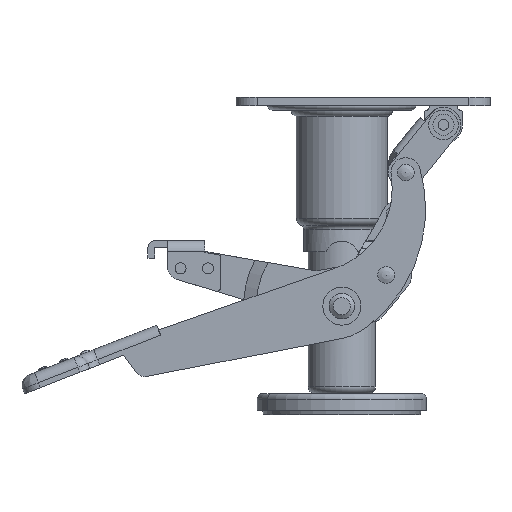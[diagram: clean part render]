
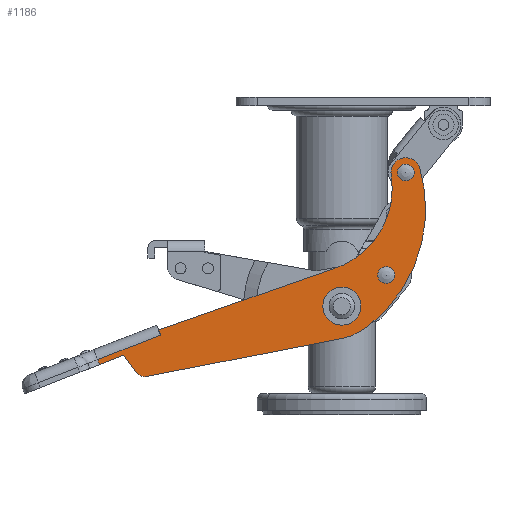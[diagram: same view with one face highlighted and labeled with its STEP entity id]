
A CAD part, left-side view. The second image highlights one B-rep face of the part: STEP entity #1186.
In plain terms, the highlighted planar face has unit normal (-1, 0, 0).
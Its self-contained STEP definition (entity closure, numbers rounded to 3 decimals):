
#1186 = ADVANCED_FACE( '', ( #3129, #3130, #3131 ), #3132, .T. );
#3129 = FACE_BOUND( '', #6163, .T. );
#3130 = FACE_OUTER_BOUND( '', #6164, .T. );
#3131 = FACE_BOUND( '', #6165, .T. );
#3132 = PLANE( '', #6166 );
#6163 = EDGE_LOOP( '', ( #10733 ) );
#6164 = EDGE_LOOP( '', ( #10734, #10735, #10736, #10737, #10738, #10739, #10740, #10741, #10742, #10743, #10744, #10745 ) );
#6165 = EDGE_LOOP( '', ( #10746 ) );
#6166 = AXIS2_PLACEMENT_3D( '', #10747, #10748, #10749 );
#10733 = ORIENTED_EDGE( '', *, *, #18629, .F. );
#10734 = ORIENTED_EDGE( '', *, *, #18630, .F. );
#10735 = ORIENTED_EDGE( '', *, *, #18396, .F. );
#10736 = ORIENTED_EDGE( '', *, *, #18631, .F. );
#10737 = ORIENTED_EDGE( '', *, *, #18632, .F. );
#10738 = ORIENTED_EDGE( '', *, *, #18633, .F. );
#10739 = ORIENTED_EDGE( '', *, *, #18440, .F. );
#10740 = ORIENTED_EDGE( '', *, *, #18634, .F. );
#10741 = ORIENTED_EDGE( '', *, *, #18635, .F. );
#10742 = ORIENTED_EDGE( '', *, *, #18636, .F. );
#10743 = ORIENTED_EDGE( '', *, *, #18637, .F. );
#10744 = ORIENTED_EDGE( '', *, *, #18638, .F. );
#10745 = ORIENTED_EDGE( '', *, *, #18639, .F. );
#10746 = ORIENTED_EDGE( '', *, *, #18546, .F. );
#10747 = CARTESIAN_POINT( '', ( -29.5, -566.982, -84.159 ) );
#10748 = DIRECTION( '', ( -1., 0., 0. ) );
#10749 = DIRECTION( '', ( 0., 0.932, -0.363 ) );
#18396 = EDGE_CURVE( '', #21567, #21569, #21570, .T. );
#18440 = EDGE_CURVE( '', #21645, #21647, #21648, .T. );
#18546 = EDGE_CURVE( '', #21837, #21837, #21838, .F. );
#18629 = EDGE_CURVE( '', #21974, #21974, #21975, .F. );
#18630 = EDGE_CURVE( '', #21569, #21976, #21977, .F. );
#18631 = EDGE_CURVE( '', #21978, #21567, #21979, .F. );
#18632 = EDGE_CURVE( '', #21980, #21978, #21981, .T. );
#18633 = EDGE_CURVE( '', #21647, #21980, #21982, .T. );
#18634 = EDGE_CURVE( '', #21983, #21645, #21984, .F. );
#18635 = EDGE_CURVE( '', #21985, #21983, #21986, .F. );
#18636 = EDGE_CURVE( '', #21987, #21985, #21988, .T. );
#18637 = EDGE_CURVE( '', #21989, #21987, #21990, .F. );
#18638 = EDGE_CURVE( '', #21991, #21989, #21992, .F. );
#18639 = EDGE_CURVE( '', #21976, #21991, #21993, .F. );
#21567 = VERTEX_POINT( '', #26140 );
#21569 = VERTEX_POINT( '', #26143 );
#21570 = CIRCLE( '', #26144, 5. );
#21645 = VERTEX_POINT( '', #26242 );
#21647 = VERTEX_POINT( '', #26245 );
#21648 = CIRCLE( '', #26246, 7. );
#21837 = VERTEX_POINT( '', #26548 );
#21838 = CIRCLE( '', #26549, 3.5 );
#21974 = VERTEX_POINT( '', #26811 );
#21975 = CIRCLE( '', #26812, 3.5 );
#21976 = VERTEX_POINT( '', #26813 );
#21977 = LINE( '', #26814, #26815 );
#21978 = VERTEX_POINT( '', #26816 );
#21979 = LINE( '', #26817, #26818 );
#21980 = VERTEX_POINT( '', #26819 );
#21981 = CIRCLE( '', #26820, 30. );
#21982 = CIRCLE( '', #26821, 70. );
#21983 = VERTEX_POINT( '', #26822 );
#21984 = CIRCLE( '', #26823, 40. );
#21985 = VERTEX_POINT( '', #26824 );
#21986 = LINE( '', #26825, #26826 );
#21987 = VERTEX_POINT( '', #26827 );
#21988 = LINE( '', #26828, #26829 );
#21989 = VERTEX_POINT( '', #26830 );
#21990 = LINE( '', #26831, #26832 );
#21991 = VERTEX_POINT( '', #26833 );
#21992 = LINE( '', #26834, #26835 );
#21993 = LINE( '', #26836, #26837 );
#26140 = CARTESIAN_POINT( '', ( -29.5, 92.192, -131.917 ) );
#26143 = CARTESIAN_POINT( '', ( -29.5, 97.171, -129.977 ) );
#26144 = AXIS2_PLACEMENT_3D( '', #33547, #33548, #33549 );
#26242 = CARTESIAN_POINT( '', ( -29.5, -23.269, -36.654 ) );
#26245 = CARTESIAN_POINT( '', ( -29.5, -36.911, -33.616 ) );
#26246 = AXIS2_PLACEMENT_3D( '', #33604, #33605, #33606 );
#26548 = CARTESIAN_POINT( '', ( -29.5, -21., -87.5 ) );
#26549 = AXIS2_PLACEMENT_3D( '', #33760, #33761, #33762 );
#26811 = CARTESIAN_POINT( '', ( -29.5, -30.18, -39.04 ) );
#26812 = AXIS2_PLACEMENT_3D( '', #33866, #33867, #33868 );
#26813 = CARTESIAN_POINT( '', ( -29.5, 103.145, -121.874 ) );
#26814 = CARTESIAN_POINT( '', ( -29.5, 106.723, -117.021 ) );
#26815 = VECTOR( '', #33869, 1000. );
#26816 = CARTESIAN_POINT( '', ( -29.5, 0.313, -114.042 ) );
#26817 = CARTESIAN_POINT( '', ( -29.5, 92.192, -131.917 ) );
#26818 = VECTOR( '', #33870, 1000. );
#26819 = CARTESIAN_POINT( '', ( -29.5, -12.221, -108.395 ) );
#26820 = AXIS2_PLACEMENT_3D( '', #33871, #33872, #33873 );
#26821 = AXIS2_PLACEMENT_3D( '', #33874, #33875, #33876 );
#26822 = CARTESIAN_POINT( '', ( -29.5, 5.455, -81.538 ) );
#26823 = AXIS2_PLACEMENT_3D( '', #33877, #33878, #33879 );
#26824 = CARTESIAN_POINT( '', ( -29.5, 86.645, -109.986 ) );
#26825 = CARTESIAN_POINT( '', ( -29.5, 5.455, -81.538 ) );
#26826 = VECTOR( '', #33880, 1000. );
#26827 = CARTESIAN_POINT( '', ( -29.5, 85.706, -112.396 ) );
#26828 = CARTESIAN_POINT( '', ( -29.5, 9.235, -308.666 ) );
#26829 = VECTOR( '', #33881, 1000. );
#26830 = CARTESIAN_POINT( '', ( -29.5, 115.445, -123.983 ) );
#26831 = CARTESIAN_POINT( '', ( -29.5, 85.706, -112.396 ) );
#26832 = VECTOR( '', #33882, 1000. );
#26833 = CARTESIAN_POINT( '', ( -29.5, 114.538, -126.313 ) );
#26834 = CARTESIAN_POINT( '', ( -29.5, 117.261, -119.324 ) );
#26835 = VECTOR( '', #33883, 1000. );
#26836 = CARTESIAN_POINT( '', ( -29.5, 149.945, -140.108 ) );
#26837 = VECTOR( '', #33884, 1000. );
#33547 = CARTESIAN_POINT( '', ( -29.5, 93.147, -127.009 ) );
#33548 = DIRECTION( '', ( 1., 0., 0. ) );
#33549 = DIRECTION( '', ( 0., 0., -1. ) );
#33604 = CARTESIAN_POINT( '', ( -29.5, -30.18, -35.54 ) );
#33605 = DIRECTION( '', ( 1., 0., 0. ) );
#33606 = DIRECTION( '', ( 0., 0., -1. ) );
#33760 = CARTESIAN_POINT( '', ( -29.5, -21., -84. ) );
#33761 = DIRECTION( '', ( 1., 0., 0. ) );
#33762 = DIRECTION( '', ( 0., 0., -1. ) );
#33866 = CARTESIAN_POINT( '', ( -29.5, -30.18, -35.54 ) );
#33867 = DIRECTION( '', ( 1., 0., 0. ) );
#33868 = DIRECTION( '', ( 0., 0., -1. ) );
#33869 = DIRECTION( '', ( 0., -0.593, -0.805 ) );
#33870 = DIRECTION( '', ( 0., -0.982, 0.191 ) );
#33871 = CARTESIAN_POINT( '', ( -29.5, 6.042, -84.594 ) );
#33872 = DIRECTION( '', ( 1., 0., 0. ) );
#33873 = DIRECTION( '', ( 0., 0., -1. ) );
#33874 = CARTESIAN_POINT( '', ( -29.5, 30.392, -52.86 ) );
#33875 = DIRECTION( '', ( 1., 0., 0. ) );
#33876 = DIRECTION( '', ( 0., 0., -1. ) );
#33877 = CARTESIAN_POINT( '', ( -29.5, 16.221, -43.015 ) );
#33878 = DIRECTION( '', ( 1., 0., 0. ) );
#33879 = DIRECTION( '', ( 0., 0., -1. ) );
#33880 = DIRECTION( '', ( 0., 0.944, -0.331 ) );
#33881 = DIRECTION( '', ( 0., 0.363, 0.932 ) );
#33882 = DIRECTION( '', ( 0., 0.932, -0.363 ) );
#33883 = DIRECTION( '', ( 0., -0.363, -0.932 ) );
#33884 = DIRECTION( '', ( 0., -0.932, 0.363 ) );
